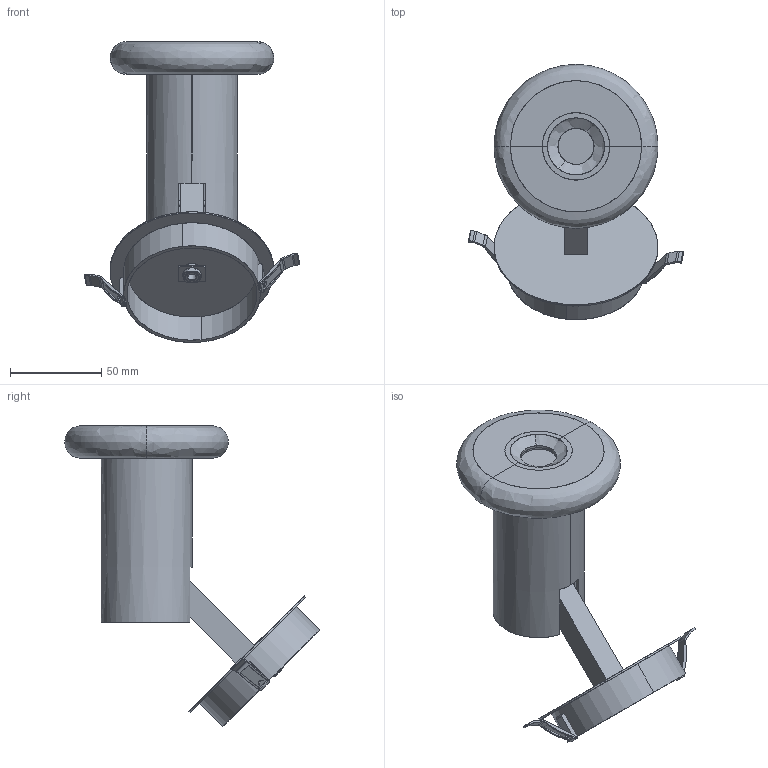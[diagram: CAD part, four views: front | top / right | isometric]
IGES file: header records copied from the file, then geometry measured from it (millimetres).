
Start section: SolidWorks IGES file using analytic representation for surfaces
Global section: file name: C:\Users\Agustin\Desktop\ANGELA\2026\ARQUITECTURAL\COCUS\COCUS_T0310 .IGS; native system: SolidWorks 2023; preprocessor: SolidWorks 2023; author: Agustin; date: 260421.151408; units: millimetre
Bounding box: 118.29 x 139.97 x 165.21 mm (x, y, z)
Surface area: 115926.3 mm2 (no closed solid volume)
Topology: 0 solids, 0 shells, 909 faces, 12352 edges, 12350 vertices
Faces by surface type: bspline 574, revolution 335
